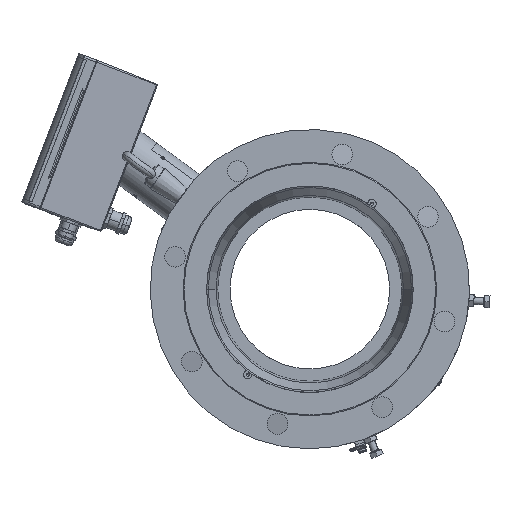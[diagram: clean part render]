
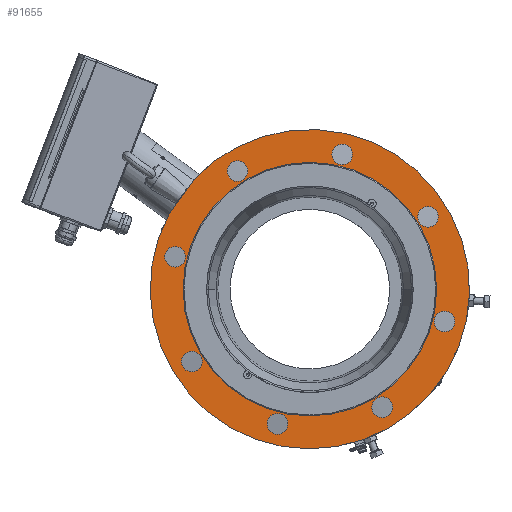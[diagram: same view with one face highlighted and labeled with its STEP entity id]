
A CAD part, left-side view. The second image highlights one B-rep face of the part: STEP entity #91655.
In plain terms, the highlighted planar face has unit normal (-1, 0, 0).
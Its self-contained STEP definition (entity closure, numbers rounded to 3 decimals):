
#21520=CARTESIAN_POINT('',(-297.,0.,0.));
#21521=DIRECTION('',(-1.,0.,0.));
#21522=DIRECTION('',(0.,0.88,0.475));
#21523=AXIS2_PLACEMENT_3D('',#21520,#21521,#21522);
#21646=DIRECTION('',(0.,-0.588,0.809));
#21647=VECTOR('',#21646,45.067);
#21648=CARTESIAN_POINT('',(-297.,149.564,80.812));
#21649=LINE('4598',#21648,#21647);
#21653=CARTESIAN_POINT('',(-297.,0.,0.));
#21654=DIRECTION('',(-1.,0.,0.));
#21655=DIRECTION('',(0.,1.,0.));
#21656=AXIS2_PLACEMENT_3D('',#21653,#21654,#21655);
#21661=CARTESIAN_POINT('',(-297.,0.,0.));
#21662=DIRECTION('',(1.,0.,0.));
#21663=DIRECTION('',(0.,1.,0.));
#21664=AXIS2_PLACEMENT_3D('',#21661,#21662,#21663);
#21669=CARTESIAN_POINT('',(-297.,143.425,34.433));
#21670=DIRECTION('',(1.,0.,0.));
#21671=DIRECTION('',(0.,1.,0.));
#21672=AXIS2_PLACEMENT_3D('',#21669,#21670,#21671);
#21677=CARTESIAN_POINT('',(-297.,143.425,34.433));
#21678=DIRECTION('',(1.,0.,0.));
#21679=DIRECTION('',(0.,-1.,0.));
#21680=AXIS2_PLACEMENT_3D('',#21677,#21678,#21679);
#21685=CARTESIAN_POINT('',(-297.,77.069,125.764));
#21686=DIRECTION('',(1.,0.,0.));
#21687=DIRECTION('',(0.,0.707,0.707));
#21688=AXIS2_PLACEMENT_3D('',#21685,#21686,#21687);
#21693=CARTESIAN_POINT('',(-297.,77.069,125.764));
#21694=DIRECTION('',(1.,0.,0.));
#21695=DIRECTION('',(0.,-0.707,-0.707));
#21696=AXIS2_PLACEMENT_3D('',#21693,#21694,#21695);
#21701=CARTESIAN_POINT('',(-297.,-34.433,143.425));
#21702=DIRECTION('',(1.,0.,0.));
#21703=DIRECTION('',(0.,0.,1.));
#21704=AXIS2_PLACEMENT_3D('',#21701,#21702,#21703);
#21709=CARTESIAN_POINT('',(-297.,-34.433,143.425));
#21710=DIRECTION('',(1.,0.,0.));
#21711=DIRECTION('',(0.,0.,-1.));
#21712=AXIS2_PLACEMENT_3D('',#21709,#21710,#21711);
#21717=CARTESIAN_POINT('',(-297.,-125.764,77.069));
#21718=DIRECTION('',(1.,0.,0.));
#21719=DIRECTION('',(0.,-0.707,0.707));
#21720=AXIS2_PLACEMENT_3D('',#21717,#21718,#21719);
#21725=CARTESIAN_POINT('',(-297.,-125.764,77.069));
#21726=DIRECTION('',(1.,0.,0.));
#21727=DIRECTION('',(0.,0.707,-0.707));
#21728=AXIS2_PLACEMENT_3D('',#21725,#21726,#21727);
#21733=CARTESIAN_POINT('',(-297.,-143.425,-34.433));
#21734=DIRECTION('',(1.,0.,0.));
#21735=DIRECTION('',(0.,-1.,0.));
#21736=AXIS2_PLACEMENT_3D('',#21733,#21734,#21735);
#21741=CARTESIAN_POINT('',(-297.,-143.425,-34.433));
#21742=DIRECTION('',(1.,0.,0.));
#21743=DIRECTION('',(0.,1.,0.));
#21744=AXIS2_PLACEMENT_3D('',#21741,#21742,#21743);
#21749=CARTESIAN_POINT('',(-297.,-77.069,-125.764));
#21750=DIRECTION('',(1.,0.,0.));
#21751=DIRECTION('',(0.,-0.707,-0.707));
#21752=AXIS2_PLACEMENT_3D('',#21749,#21750,#21751);
#21757=CARTESIAN_POINT('',(-297.,-77.069,-125.764));
#21758=DIRECTION('',(1.,0.,0.));
#21759=DIRECTION('',(0.,0.707,0.707));
#21760=AXIS2_PLACEMENT_3D('',#21757,#21758,#21759);
#21765=CARTESIAN_POINT('',(-297.,34.433,-143.425));
#21766=DIRECTION('',(1.,0.,0.));
#21767=DIRECTION('',(0.,0.,-1.));
#21768=AXIS2_PLACEMENT_3D('',#21765,#21766,#21767);
#21773=CARTESIAN_POINT('',(-297.,34.433,-143.425));
#21774=DIRECTION('',(1.,0.,0.));
#21775=DIRECTION('',(0.,0.,1.));
#21776=AXIS2_PLACEMENT_3D('',#21773,#21774,#21775);
#21781=CARTESIAN_POINT('',(-297.,125.764,-77.069));
#21782=DIRECTION('',(1.,0.,0.));
#21783=DIRECTION('',(0.,0.707,-0.707));
#21784=AXIS2_PLACEMENT_3D('',#21781,#21782,#21783);
#21789=CARTESIAN_POINT('',(-297.,125.764,-77.069));
#21790=DIRECTION('',(1.,0.,0.));
#21791=DIRECTION('',(0.,-0.707,0.707));
#21792=AXIS2_PLACEMENT_3D('',#21789,#21790,#21791);
#67207=CARTESIAN_POINT('',(-297.,154.425,34.433));
#67208=CARTESIAN_POINT('',(-297.,132.425,34.433));
#67209=VERTEX_POINT('',#67207);
#67210=VERTEX_POINT('',#67208);
#67215=CARTESIAN_POINT('',(-297.,84.847,133.543));
#67216=CARTESIAN_POINT('',(-297.,69.29,117.986));
#67217=VERTEX_POINT('',#67215);
#67218=VERTEX_POINT('',#67216);
#67223=CARTESIAN_POINT('',(-297.,-34.433,154.425));
#67224=CARTESIAN_POINT('',(-297.,-34.433,132.425));
#67225=VERTEX_POINT('',#67223);
#67226=VERTEX_POINT('',#67224);
#67231=CARTESIAN_POINT('',(-297.,-133.543,84.847));
#67232=CARTESIAN_POINT('',(-297.,-117.986,69.29));
#67233=VERTEX_POINT('',#67231);
#67234=VERTEX_POINT('',#67232);
#67239=CARTESIAN_POINT('',(-297.,-154.425,-34.433));
#67240=CARTESIAN_POINT('',(-297.,-132.425,-34.433));
#67241=VERTEX_POINT('',#67239);
#67242=VERTEX_POINT('',#67240);
#67247=CARTESIAN_POINT('',(-297.,-84.847,-133.543));
#67248=CARTESIAN_POINT('',(-297.,-69.29,-117.986));
#67249=VERTEX_POINT('',#67247);
#67250=VERTEX_POINT('',#67248);
#67255=CARTESIAN_POINT('',(-297.,34.433,-154.425));
#67256=CARTESIAN_POINT('',(-297.,34.433,-132.425));
#67257=VERTEX_POINT('',#67255);
#67258=VERTEX_POINT('',#67256);
#67263=CARTESIAN_POINT('',(-297.,133.543,-84.847));
#67264=CARTESIAN_POINT('',(-297.,117.986,-69.29));
#67265=VERTEX_POINT('',#67263);
#67266=VERTEX_POINT('',#67264);
#67367=CARTESIAN_POINT('',(-297.,135.,0.));
#67368=VERTEX_POINT('',#67367);
#67373=CARTESIAN_POINT('',(-297.,-135.,0.));
#67374=VERTEX_POINT('',#67373);
#67563=CARTESIAN_POINT('',(-297.,149.564,80.812));
#67564=CARTESIAN_POINT('',(-297.,123.075,117.272));
#67565=VERTEX_POINT('',#67563);
#67566=VERTEX_POINT('',#67564);
#91591=CARTESIAN_POINT('',(-297.,0.,0.));
#91592=DIRECTION('',(-1.,0.,0.));
#91593=DIRECTION('',(0.,1.,0.));
#91594=AXIS2_PLACEMENT_3D('',#91591,#91592,#91593);
#91595=PLANE('441',#91594);
#91596=ORIENTED_EDGE('4603',*,*,#91568,.F.);
#91598=ORIENTED_EDGE('4598',*,*,#91597,.T.);
#91599=EDGE_LOOP('441',(#91596,#91598));
#91600=FACE_OUTER_BOUND('441',#91599,.F.);
#91602=ORIENTED_EDGE('4428',*,*,#91601,.T.);
#91604=ORIENTED_EDGE('4431',*,*,#91603,.F.);
#91605=EDGE_LOOP('441',(#91602,#91604));
#91606=FACE_BOUND('441',#91605,.F.);
#91608=ORIENTED_EDGE('4290',*,*,#91607,.F.);
#91610=ORIENTED_EDGE('4291',*,*,#91609,.F.);
#91611=EDGE_LOOP('441',(#91608,#91610));
#91612=FACE_BOUND('441',#91611,.F.);
#91614=ORIENTED_EDGE('4296',*,*,#91613,.F.);
#91616=ORIENTED_EDGE('4297',*,*,#91615,.F.);
#91617=EDGE_LOOP('441',(#91614,#91616));
#91618=FACE_BOUND('441',#91617,.F.);
#91620=ORIENTED_EDGE('4302',*,*,#91619,.F.);
#91622=ORIENTED_EDGE('4303',*,*,#91621,.F.);
#91623=EDGE_LOOP('441',(#91620,#91622));
#91624=FACE_BOUND('441',#91623,.F.);
#91626=ORIENTED_EDGE('4308',*,*,#91625,.F.);
#91628=ORIENTED_EDGE('4309',*,*,#91627,.F.);
#91629=EDGE_LOOP('441',(#91626,#91628));
#91630=FACE_BOUND('441',#91629,.F.);
#91632=ORIENTED_EDGE('4314',*,*,#91631,.F.);
#91634=ORIENTED_EDGE('4315',*,*,#91633,.F.);
#91635=EDGE_LOOP('441',(#91632,#91634));
#91636=FACE_BOUND('441',#91635,.F.);
#91638=ORIENTED_EDGE('4320',*,*,#91637,.F.);
#91640=ORIENTED_EDGE('4321',*,*,#91639,.F.);
#91641=EDGE_LOOP('441',(#91638,#91640));
#91642=FACE_BOUND('441',#91641,.F.);
#91644=ORIENTED_EDGE('4326',*,*,#91643,.F.);
#91646=ORIENTED_EDGE('4327',*,*,#91645,.F.);
#91647=EDGE_LOOP('441',(#91644,#91646));
#91648=FACE_BOUND('441',#91647,.F.);
#91650=ORIENTED_EDGE('4332',*,*,#91649,.F.);
#91652=ORIENTED_EDGE('4333',*,*,#91651,.F.);
#91653=EDGE_LOOP('441',(#91650,#91652));
#91654=FACE_BOUND('441',#91653,.F.);
#21524=CIRCLE('4603',#21523,170.);
#21657=CIRCLE('4428',#21656,135.);
#21665=CIRCLE('4431',#21664,135.);
#21673=CIRCLE('4290',#21672,11.);
#21681=CIRCLE('4291',#21680,11.);
#21689=CIRCLE('4296',#21688,11.);
#21697=CIRCLE('4297',#21696,11.);
#21705=CIRCLE('4302',#21704,11.);
#21713=CIRCLE('4303',#21712,11.);
#21721=CIRCLE('4308',#21720,11.);
#21729=CIRCLE('4309',#21728,11.);
#21737=CIRCLE('4314',#21736,11.);
#21745=CIRCLE('4315',#21744,11.);
#21753=CIRCLE('4320',#21752,11.);
#21761=CIRCLE('4321',#21760,11.);
#21769=CIRCLE('4326',#21768,11.);
#21777=CIRCLE('4327',#21776,11.);
#21785=CIRCLE('4332',#21784,11.);
#21793=CIRCLE('4333',#21792,11.);
#91568=EDGE_CURVE('4603',#67565,#67566,#21524,.T.);
#91597=EDGE_CURVE('4598',#67565,#67566,#21649,.T.);
#91601=EDGE_CURVE('4428',#67368,#67374,#21657,.T.);
#91603=EDGE_CURVE('4431',#67368,#67374,#21665,.T.);
#91607=EDGE_CURVE('4290',#67209,#67210,#21673,.T.);
#91609=EDGE_CURVE('4291',#67210,#67209,#21681,.T.);
#91613=EDGE_CURVE('4296',#67217,#67218,#21689,.T.);
#91615=EDGE_CURVE('4297',#67218,#67217,#21697,.T.);
#91619=EDGE_CURVE('4302',#67225,#67226,#21705,.T.);
#91621=EDGE_CURVE('4303',#67226,#67225,#21713,.T.);
#91625=EDGE_CURVE('4308',#67233,#67234,#21721,.T.);
#91627=EDGE_CURVE('4309',#67234,#67233,#21729,.T.);
#91631=EDGE_CURVE('4314',#67241,#67242,#21737,.T.);
#91633=EDGE_CURVE('4315',#67242,#67241,#21745,.T.);
#91637=EDGE_CURVE('4320',#67249,#67250,#21753,.T.);
#91639=EDGE_CURVE('4321',#67250,#67249,#21761,.T.);
#91643=EDGE_CURVE('4326',#67257,#67258,#21769,.T.);
#91645=EDGE_CURVE('4327',#67258,#67257,#21777,.T.);
#91649=EDGE_CURVE('4332',#67265,#67266,#21785,.T.);
#91651=EDGE_CURVE('4333',#67266,#67265,#21793,.T.);
#91655=ADVANCED_FACE('441',(#91600,#91606,#91612,#91618,#91624,#91630,#91636,
#91642,#91648,#91654),#91595,.T.);
